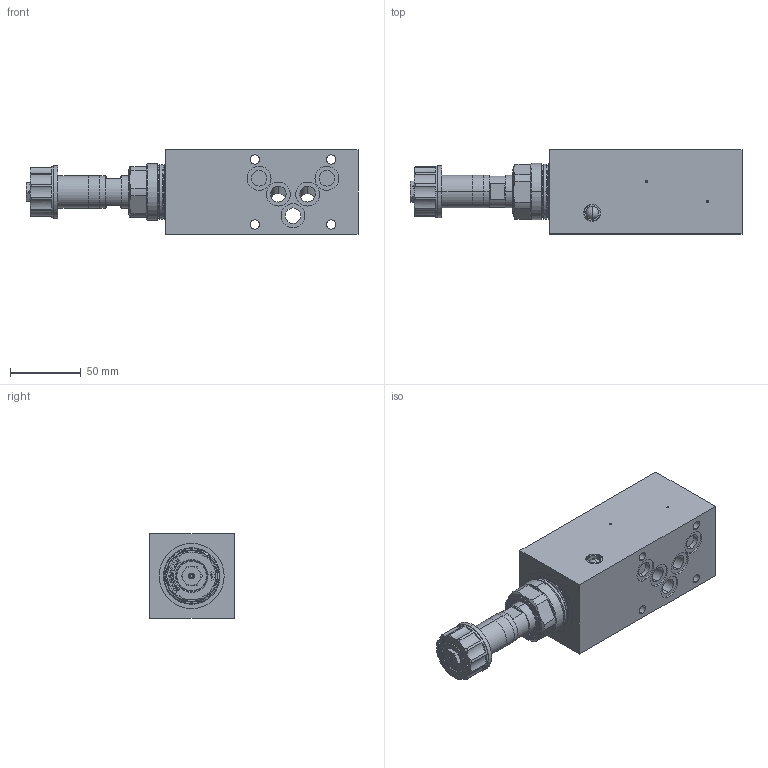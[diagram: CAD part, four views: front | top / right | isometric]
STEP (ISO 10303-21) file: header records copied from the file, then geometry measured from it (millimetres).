
FILE_DESCRIPTION (( 'STEP AP214' ), '1' );
FILE_NAME ('DNPSA10-P.STEP', '2017-04-19T10:52:29', ( '' ), ( '' ), 'SwSTEP 2.0', 'SolidWorks 2016', '' );
FILE_SCHEMA (( 'AUTOMOTIVE_DESIGN' ));
Length unit declared in the file: millimetre
Products named in the file (1): DNPSA10-P
Bounding box: 234.9 x 59.5 x 60 mm (x, y, z)
Volume: 522299.7 mm3; surface area: 68157.9 mm2
Topology: 2 solids, 4 shells, 411 faces, 1011 edges, 647 vertices
Faces by surface type: plane 185, cylinder 120, cone 72, bspline 16, torus 14, sphere 4
Entity records: 17653 total; most frequent: CARTESIAN_POINT 3440, DIRECTION 2035, ORIENTED_EDGE 2010, EDGE_CURVE 1005, AXIS2_PLACEMENT_3D 754, VERTEX_POINT 647, VECTOR 527, LINE 527
